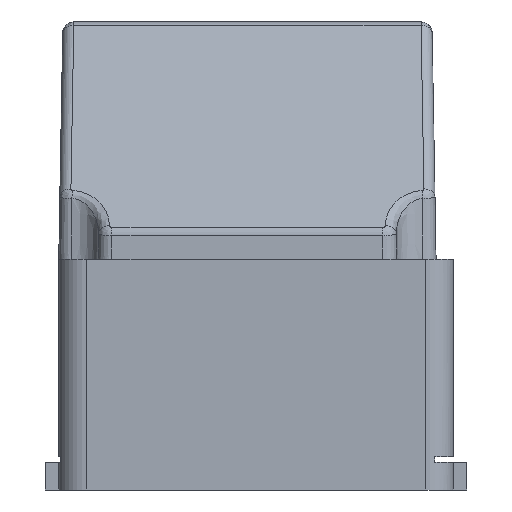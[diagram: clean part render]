
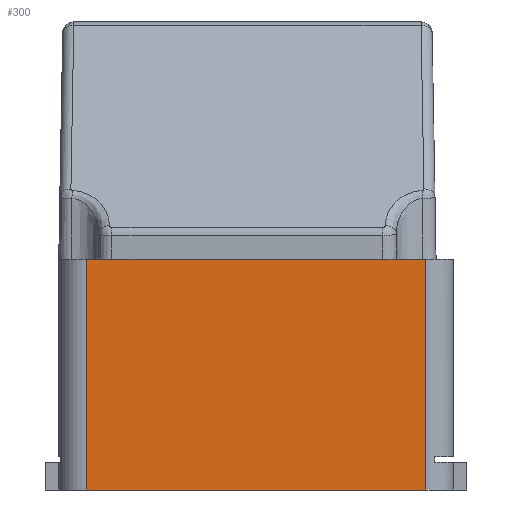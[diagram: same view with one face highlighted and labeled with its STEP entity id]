
A CAD part, left-side view. The second image highlights one B-rep face of the part: STEP entity #300.
In plain terms, the highlighted planar face has unit normal (-1, 0, 0).
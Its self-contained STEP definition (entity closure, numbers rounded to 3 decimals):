
#300=ADVANCED_FACE('',(#992),#994,.T.);
#992=FACE_BOUND('',#993,.T.);
#993=EDGE_LOOP('',(#1836,#1837,#1838,#1839,#1840,#1841));
#994=PLANE('',#995);
#995=AXIS2_PLACEMENT_3D('',#996,#997,#998);
#996=CARTESIAN_POINT('',(0.,0.,0.));
#997=DIRECTION('',(-1.,0.,0.));
#998=DIRECTION('',(0.,-1.,0.));
#1836=ORIENTED_EDGE('',*,*,#2130,.F.);
#1837=ORIENTED_EDGE('',*,*,#2131,.F.);
#1838=ORIENTED_EDGE('',*,*,#2132,.F.);
#1839=ORIENTED_EDGE('',*,*,#2101,.T.);
#1840=ORIENTED_EDGE('',*,*,#2133,.T.);
#1841=ORIENTED_EDGE('',*,*,#2078,.F.);
#2078=EDGE_CURVE('',#2285,#2288,#2289,.T.);
#2101=EDGE_CURVE('',#2331,#2329,#2332,.T.);
#2130=EDGE_CURVE('',#2379,#2285,#2380,.F.);
#2131=EDGE_CURVE('',#2381,#2379,#2382,.T.);
#2132=EDGE_CURVE('',#2331,#2381,#2383,.T.);
#2133=EDGE_CURVE('',#2329,#2288,#2384,.T.);
#2285=VERTEX_POINT('',#2929);
#2288=VERTEX_POINT('',#2935);
#2289=LINE('',#2936,#2937);
#2329=VERTEX_POINT('',#3028);
#2331=VERTEX_POINT('',#3033);
#2332=LINE('',#3034,#3035);
#2379=VERTEX_POINT('',#3196);
#2380=LINE('',#3197,#3198);
#2381=VERTEX_POINT('',#3200);
#2382=LINE('',#3201,#3202);
#2383=LINE('',#3204,#3205);
#2384=LINE('',#3207,#3208);
#2929=CARTESIAN_POINT('',(0.,-116.912,83.2));
#2935=CARTESIAN_POINT('',(0.,-132.3,83.2));
#2936=CARTESIAN_POINT('',(0.,-116.912,83.2));
#2937=VECTOR('',#2938,1.);
#2938=DIRECTION('',(0.,-1.,0.));
#3028=CARTESIAN_POINT('',(0.,-132.3,0.));
#3033=CARTESIAN_POINT('',(0.,-10.,0.));
#3034=CARTESIAN_POINT('',(0.,-10.,0.));
#3035=VECTOR('',#3036,1.);
#3036=DIRECTION('',(0.,-1.,0.));
#3196=CARTESIAN_POINT('',(0.,-19.188,83.2));
#3197=CARTESIAN_POINT('',(0.,-116.912,83.2));
#3198=VECTOR('',#3199,1.);
#3199=DIRECTION('',(0.,1.,0.));
#3200=CARTESIAN_POINT('',(0.,-10.,83.2));
#3201=CARTESIAN_POINT('',(0.,-10.,83.2));
#3202=VECTOR('',#3203,1.);
#3203=DIRECTION('',(0.,-1.,0.));
#3204=CARTESIAN_POINT('',(0.,-10.,0.));
#3205=VECTOR('',#3206,1.);
#3206=DIRECTION('',(0.,0.,1.));
#3207=CARTESIAN_POINT('',(0.,-132.3,0.));
#3208=VECTOR('',#3209,1.);
#3209=DIRECTION('',(0.,0.,1.));
